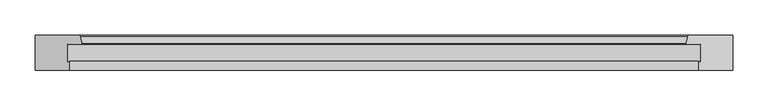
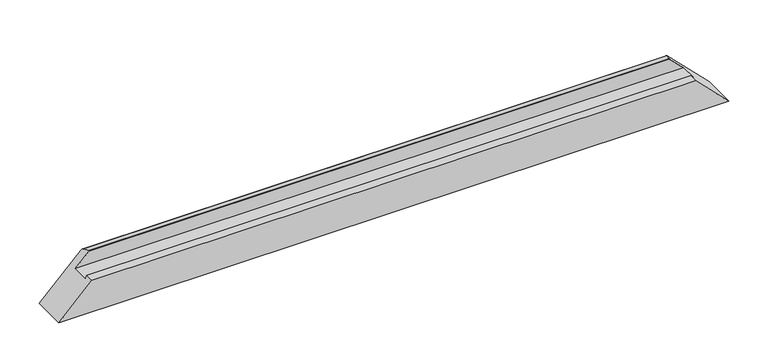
"""IFC4 building model written with IfcOpenShell, lengths in millimetres: proxy geometry, Weiku - Montante - Caixilho 02.2.01.005 : Weiku - Montante - Caixilho 02.2.01.005."""

import ifcopenshell
import ifcopenshell.guid

model = None  # the IFC model being written
_history = None  # IfcOwnerHistory: only IFC2X3 demands one
_inside = {}  # id of a spatial element -> (the spatial element, [elements in it])
_under = {}  # id of a project, library or spatial element -> (it, [spatial elements below it])
_declared = {}  # id of a project -> (the project, [libraries it declares])
_typed = {}  # id of a type object -> (the type object, [elements of that type])
_made_of = {}  # id of a material, layer set ... -> (it, [elements and type objects made of it])


def new_model(schema):
    """Start an empty IFC model of exactly this schema.

    Asked for "IFC4X3", IfcOpenShell would pick the latest addendum, in which some entities
    have other attributes; the version numbers below select the first issue.
    IFC2X3 requires an IfcOwnerHistory on every rooted entity: one is made here for all.
    """
    global model, _history
    if schema == "IFC4X3":
        model = ifcopenshell.file(schema_version=(4, 3, 0, 0))
    else:
        model = ifcopenshell.file(schema=schema)
    _inside.clear()
    _under.clear()
    _declared.clear()
    _typed.clear()
    _made_of.clear()
    _history = None
    if model.schema == "IFC2X3":
        org = make("IfcOrganization", Name="unknown")
        user = make(
            "IfcPersonAndOrganization",
            ThePerson=make("IfcPerson", FamilyName="unknown"),
            TheOrganization=org,
        )
        app = make(
            "IfcApplication",
            ApplicationDeveloper=org,
            Version="unknown",
            ApplicationFullName="unknown",
            ApplicationIdentifier="unknown",
        )
        _history = make(
            "IfcOwnerHistory",
            OwningUser=user,
            OwningApplication=app,
            ChangeAction="ADDED",
            CreationDate=0,
        )
    return model


def make(cls, **values):
    """One entity of the class cls with the attributes given. An attribute that is None is left unset."""
    return model.create_entity(
        cls, **{name: value for name, value in values.items() if value is not None}
    )


def rooted(cls, **values):
    """An entity with a GlobalId (a new one), such as an element, a storey or a relation."""
    return make(cls, GlobalId=ifcopenshell.guid.new(), OwnerHistory=_history, **values)


def si_unit(unit_type, name, prefix=None):
    """IfcSIUnit, for example si_unit("LENGTHUNIT", "METRE", prefix="MILLI")."""
    return make("IfcSIUnit", UnitType=unit_type, Prefix=prefix, Name=name)


def assignment(units):
    """IfcUnitAssignment: the units of a project."""
    return None if units is None else make("IfcUnitAssignment", Units=units)


def point(xyz):
    """IfcCartesianPoint."""
    return None if xyz is None else make("IfcCartesianPoint", Coordinates=xyz)


def direction(xyz):
    """IfcDirection."""
    return None if xyz is None else make("IfcDirection", DirectionRatios=xyz)


def frame(location, z_axis=None, x_axis=None):
    """IfcAxis2Placement3D, a coordinate frame: its origin and axes. An axis left out is left unset."""
    return make(
        "IfcAxis2Placement3D",
        Location=point(location),
        Axis=direction(z_axis),
        RefDirection=direction(x_axis),
    )


def origin():
    """The frame at (0, 0, 0) with its axes left unset."""
    return frame((0.0, 0.0, 0.0))


def place(relative_to, where):
    """IfcLocalPlacement: puts the frame where relative to a parent placement (None: the world)."""
    return make(
        "IfcLocalPlacement", PlacementRelTo=relative_to, RelativePlacement=where
    )


def context(
    kind, dimensions, precision=None, world=None, true_north=None, identifier=None
):
    """IfcGeometricRepresentationContext, for example the 3D "Model" context."""
    return make(
        "IfcGeometricRepresentationContext",
        ContextIdentifier=identifier,
        ContextType=kind,
        CoordinateSpaceDimension=dimensions,
        Precision=precision,
        WorldCoordinateSystem=world,
        TrueNorth=true_north,
    )


def project(units=None, contexts=None):
    """IfcProject with its units and contexts."""
    return rooted(
        "IfcProject",
        Name="project",
        RepresentationContexts=contexts,
        UnitsInContext=assignment(units),
    )


def spatial(cls, under=None, at=None, **own):
    """A site, building, storey or space (cls), placed at a placement, below another one or the project."""
    s = rooted(cls, ObjectPlacement=at, **own)
    if under is not None:
        _under.setdefault(under.id(), (under, []))[1].append(s)
    return s


def ellipse_curve(where, semi_axis1, semi_axis2):
    """IfcEllipse in the frame where."""
    return make(
        "IfcEllipse", Position=where, SemiAxis1=semi_axis1, SemiAxis2=semi_axis2
    )


def shape(context_of_items, identifier, shape_type, items):
    """IfcShapeRepresentation: the items that make up one representation, for example the "Body"."""
    return make(
        "IfcShapeRepresentation",
        ContextOfItems=context_of_items,
        RepresentationIdentifier=identifier,
        RepresentationType=shape_type,
        Items=items,
    )


def source(mapping_origin, context_of_items, identifier, shape_type, items):
    """IfcRepresentationMap: a shape defined once, which mapped items show again and again."""
    return make(
        "IfcRepresentationMap",
        MappingOrigin=mapping_origin,
        MappedRepresentation=shape(context_of_items, identifier, shape_type, items),
    )


def transform(
    local_origin,
    x_axis=None,
    y_axis=None,
    z_axis=None,
    scale=None,
    scale2=None,
    scale3=None,
    uniform=True,
):
    """IfcCartesianTransformationOperator3D, or its non-uniform kind. x_axis, y_axis, z_axis: its Axis1, 2, 3."""
    if uniform:
        return make(
            "IfcCartesianTransformationOperator3D",
            Axis1=direction(x_axis),
            Axis2=direction(y_axis),
            LocalOrigin=point(local_origin),
            Scale=scale,
            Axis3=direction(z_axis),
        )
    return make(
        "IfcCartesianTransformationOperator3DnonUniform",
        Axis1=direction(x_axis),
        Axis2=direction(y_axis),
        LocalOrigin=point(local_origin),
        Scale=scale,
        Axis3=direction(z_axis),
        Scale2=scale2,
        Scale3=scale3,
    )


def mapped(mapping_source, mapping_target):
    """IfcMappedItem: shows the shape of a source again, moved by a transform."""
    return make(
        "IfcMappedItem", MappingSource=mapping_source, MappingTarget=mapping_target
    )


def made_of(thing, what):
    """Note that an element or type object is made of a material, layer set ...; save() writes the relation."""
    if what is not None:
        _made_of.setdefault(what.id(), (what, []))[1].append(thing)
    return thing


def element(
    cls,
    number,
    at=None,
    inside=None,
    cuts=None,
    type_object=None,
    material=None,
    context=None,
    identifier="Body",
    shape_type=None,
    held_by="IfcProductDefinitionShape",
    body=None,
    shapes=None,
    **own,
):
    """One element of the class cls, such as IfcWall. Its Tag is "e" and its number.

    at: its placement. inside: the storey or other place that contains it. cuts: it is an
    opening in that element (IfcRelVoidsElement). A single representation is given by context,
    identifier, shape_type and body (its items); several are given by shapes. held_by: the class
    of the entity that holds the representations. save() writes the other relations.
    """
    e = rooted(cls, Tag="e%d" % number, ObjectPlacement=at, **own)
    if body is not None:
        shapes = [shape(context, identifier, shape_type, body)]
    if shapes is not None:
        e.Representation = make(held_by, Representations=shapes)
    if inside is not None:
        _inside.setdefault(inside.id(), (inside, []))[1].append(e)
    if cuts is not None:
        rooted(
            "IfcRelVoidsElement", RelatingBuildingElement=cuts, RelatedOpeningElement=e
        )
    if type_object is not None:
        _typed.setdefault(type_object.id(), (type_object, []))[1].append(e)
    return made_of(e, material)


def aggregate(whole, parts):
    """IfcRelAggregates: a whole, such as a stair, and the parts it consists of."""
    return rooted("IfcRelAggregates", RelatingObject=whole, RelatedObjects=parts)


def save(model, path):
    """Write the relations noted so far, then the file.

    IfcRelAggregates (storeys below a building ...), IfcRelContainedInSpatialStructure (elements
    in a storey), IfcRelDefinesByType, IfcRelAssociatesMaterial and IfcRelDeclares: one each for
    every whole, place, type object, material and project.
    """
    for whole, parts in _under.values():
        aggregate(whole, parts)
    for where, things in _inside.values():
        rooted(
            "IfcRelContainedInSpatialStructure",
            RelatedElements=things,
            RelatingStructure=where,
        )
    for kind, things in _typed.values():
        rooted("IfcRelDefinesByType", RelatedObjects=things, RelatingType=kind)
    for what, things in _made_of.values():
        rooted("IfcRelAssociatesMaterial", RelatedObjects=things, RelatingMaterial=what)
    for by, libraries in _declared.values():
        rooted("IfcRelDeclares", RelatingContext=by, RelatedDefinitions=libraries)
    model.write(path)


def plane_surface(at):
    """IfcPlane: the flat surface through the origin of the frame at, square to its z axis."""
    return make("IfcPlane", Position=at)


def cylinder_surface(at, radius):
    """IfcCylindricalSurface: all points at the distance radius from the z axis of the frame at."""
    return make("IfcCylindricalSurface", Position=at, Radius=radius)


def advanced_brep(points, edges, surfaces, faces):
    """IfcAdvancedBrep: a solid bounded by faces that lie on surfaces and meet in shared edges.

    An edge is (start, end): straight between two places in points (the first is 0);
    or (start, end, curve); or (start, end, curve, False) where it runs against its curve.
    A face is (place in surfaces, loops), or (place, loops, False) where it looks against
    its surface's normal. A loop lists edges by number (the first is 1), with a minus sign
    where the edge is run from its end to its start. The first loop is the outer one.
    """
    corners = [point(p) for p in points]
    vertices = [make("IfcVertexPoint", VertexGeometry=c) for c in corners]
    made = []
    for start, end, *more in edges:
        made.append(
            make(
                "IfcEdgeCurve",
                EdgeStart=vertices[start],
                EdgeEnd=vertices[end],
                EdgeGeometry=more[0] if more else make("IfcPolyline", Points=[corners[start], corners[end]]),
                SameSense=more[1] if len(more) > 1 else True,
            )
        )
    hull = []
    for where, loops, *sense in faces:
        bounds = []
        for j, loop in enumerate(loops):
            ring = [make("IfcOrientedEdge", EdgeElement=made[abs(k) - 1], Orientation=k > 0) for k in loop]
            bounds.append(
                make(
                    "IfcFaceOuterBound" if j == 0 else "IfcFaceBound",
                    Bound=make("IfcEdgeLoop", EdgeList=ring),
                    Orientation=True,
                )
            )
        hull.append(make("IfcAdvancedFace", Bounds=bounds, FaceSurface=surfaces[where], SameSense=sense[0] if sense else True))
    return make("IfcAdvancedBrep", Outer=make("IfcClosedShell", CfsFaces=hull))


def generic_models_da0370f2(model_context):
    return source(origin(), model_context, "Body", "AdvancedBrep", [
        advanced_brep(
        [(-449.0, -12.5, 46.0), (449.0, -12.5, 46.0), (428.8909676, -12.5, 66.1090324), (-428.8909676, -12.5, 66.1090324), (-449.0, -37.8314286, 46.0), (449.0, -37.8314286, 46.0), (-446.0, -37.027581, 49.0), (446.0, -37.027581, 49.0), (-446.0, -50.0, 49.0), (446.0, -50.0, 49.0), (495.0, -50.0, 0.0), (-495.0, -50.0, 0.0), (-495.0, 0.0, 0.0), (495.0, 0.0, 0.0), (-433.4997332, 0.0, 61.5002668), (433.4997332, 0.0, 61.5002668), (-428.118227, -11.4929448, 66.881773), (428.118227, -11.4929448, 66.881773), (430.6019557, -2.2235429, 64.3980443), (-430.6019557, -2.2235429, 64.3980443)],
        [
            (0, 1),
            (1, 2),
            (2, 3),
            (3, 0),
            (4, 5),
            (5, 1),
            (0, 4),
            (6, 7),
            (7, 5),
            (4, 6),
            (8, 9),
            (9, 7),
            (6, 8),
            (10, 9),
            (8, 11),
            (11, 10),
            (11, 12),
            (12, 13),
            (13, 10),
            (12, 14),
            (14, 15),
            (15, 13),
            (16, 17),
            (17, 18),
            (18, 19),
            (19, 16),
            (3, 16, ellipse_curve(frame((-428.8909676, -11.7, 66.1090324), z_axis=(-0.7071067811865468, 0.0, 0.7071067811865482), x_axis=(-0.7071067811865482, 0.0, -0.7071067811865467)), 1.1313708, 0.8)),
            (19, 14, ellipse_curve(frame((-433.4997332, -3.0, 61.5002668), z_axis=(-0.7071067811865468, 0.0, 0.7071067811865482), x_axis=(-0.7071067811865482, 0.0, -0.7071067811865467)), 4.2426407, 3.0)),
            (15, 18, ellipse_curve(frame((433.4997332, -3.0, 61.5002668), z_axis=(0.707106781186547, 0.0, 0.7071067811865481), x_axis=(-0.7071067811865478, 0.0, 0.707106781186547)), 4.2426407, 3.0)),
            (17, 2, ellipse_curve(frame((428.8909676, -11.7, 66.1090324), z_axis=(0.707106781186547, 0.0, 0.7071067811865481), x_axis=(-0.7071067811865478, 0.0, 0.707106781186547)), 1.1313708, 0.8)),
        ],
        [
            plane_surface(frame((-495.0, -12.5, 66.1090324), z_axis=(0.0, -1.0, 0.0), x_axis=(1.0, 0.0, 0.0))),
            plane_surface(frame((-495.0, -12.5, 46.0), z_axis=(0.0, 0.0, 1.0), x_axis=(1.0, 0.0, 0.0))),
            plane_surface(frame((-495.0, -37.8314286, 46.0), z_axis=(0.0, 0.9659258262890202, -0.2588190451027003), x_axis=(1.0, 0.0, 0.0))),
            plane_surface(frame((-495.0, -37.027581, 49.0), z_axis=(0.0, 0.0, 1.0), x_axis=(1.0, 0.0, 0.0))),
            plane_surface(frame((-495.0, -50.0, 49.0), z_axis=(0.0, -1.0, 0.0), x_axis=(1.0, 0.0, 0.0))),
            plane_surface(frame((-495.0, -50.0, 0.0), z_axis=(0.0, 0.0, -1.0), x_axis=(1.0, 0.0, 0.0))),
            plane_surface(frame((-495.0, 0.0, 0.0), z_axis=(0.0, 1.0, 0.0), x_axis=(1.0, 0.0, 0.0))),
            plane_surface(frame((-495.0, -2.2235429, 64.3980443), z_axis=(0.0, 0.2588190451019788, 0.9659258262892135), x_axis=(1.0, 0.0, 0.0))),
            plane_surface(frame((-565.0, 15.0, -70.0), z_axis=(-0.7071067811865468, 0.0, 0.7071067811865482), x_axis=(0.0, -1.0, 0.0))),
            plane_surface(frame((425.0, 15.0, 70.0), z_axis=(0.707106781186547, 0.0, 0.7071067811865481), x_axis=(0.0, -1.0, 0.0))),
            cylinder_surface(frame((-495.0, -11.7, 66.1090324), z_axis=(-1.0, 0.0, 0.0), x_axis=(0.0, -1.0, 0.0)), 0.8),
            cylinder_surface(frame((-495.0, -3.0, 61.5002668), z_axis=(-1.0, 0.0, 0.0), x_axis=(0.0, -1.0, 0.0)), 3.0),
        ],
        [
            (0, [[1, 2, 3, 4]]),
            (1, [[5, 6, -1, 7]]),
            (2, [[8, 9, -5, 10]]),
            (3, [[11, 12, -8, 13]]),
            (4, [[14, -11, 15, 16]]),
            (5, [[17, 18, 19, -16]]),
            (6, [[20, 21, 22, -18]]),
            (7, [[23, 24, 25, 26]]),
            (8, [[27, -26, 28, -20, -17, -15, -13, -10, -7, -4]]),
            (9, [[-6, -9, -12, -14, -19, -22, 29, -24, 30, -2]]),
            (10, [[-3, -30, -23, -27]]),
            (11, [[-25, -29, -21, -28]]),
        ],
    ),
    ])


if __name__ == "__main__":
    model = new_model("IFC4")
    model_context = context("Model", 3, world=origin())
    ifc_project = project(units=[si_unit("LENGTHUNIT", "METRE", prefix="MILLI")], contexts=[model_context])
    site = spatial("IfcSite", under=ifc_project)
    building = spatial("IfcBuilding", under=site)
    placement = place(None, origin())
    generic_models_shape = generic_models_da0370f2(model_context)
    element("IfcBuildingElementProxy", 1, Name="Weiku - Montante - Caixilho 02.2.01.005 : Weiku - Montante - Caixilho 02.2.01.005", ObjectType="Weiku - Montante - Caixilho 02.2.01.005 : Weiku - Montante - Caixilho 02.2.01.005", at=placement, inside=building, context=model_context, shape_type="MappedRepresentation", body=[
        mapped(generic_models_shape, transform((0.0, 0.0, 0.0), x_axis=(1.0, 0.0, 0.0), y_axis=(0.0, 1.0, 0.0), z_axis=(0.0, 0.0, 1.0))),
    ])
    save(model, "model.ifc")
